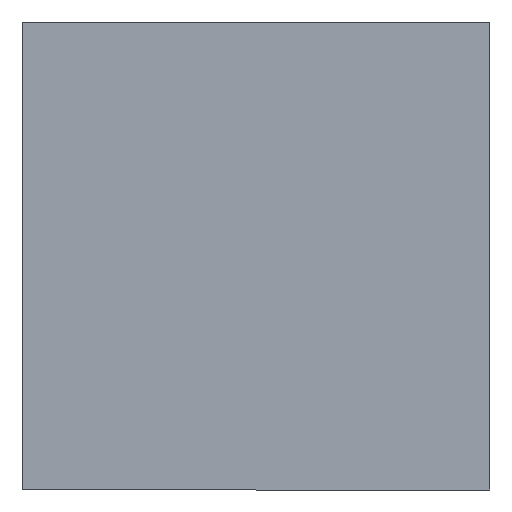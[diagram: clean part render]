
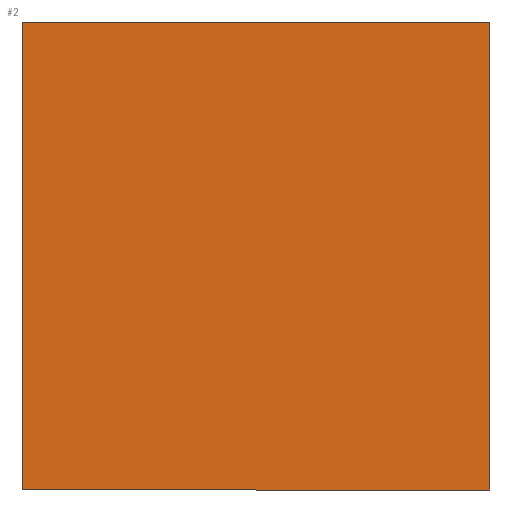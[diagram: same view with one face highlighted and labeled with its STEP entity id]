
A CAD part, left-side view. The second image highlights one B-rep face of the part: STEP entity #2.
In plain terms, the highlighted planar face has unit normal (-1, 0, 0).
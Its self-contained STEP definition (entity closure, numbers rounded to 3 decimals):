
#2 = ADVANCED_FACE ( 'NONE', ( #60 ), #125, .T. ) ;
#8 = EDGE_CURVE ( 'NONE', #194, #126, #94, .T. ) ;
#14 = EDGE_CURVE ( 'NONE', #123, #186, #75, .T. ) ;
#18 = AXIS2_PLACEMENT_3D ( 'NONE', #159, #191, #197 ) ;
#22 = EDGE_CURVE ( 'NONE', #126, #123, #78, .T. ) ;
#24 = EDGE_CURVE ( 'NONE', #186, #194, #102, .T. ) ;
#45 = VECTOR ( 'NONE', #148, 1000. ) ;
#48 = ORIENTED_EDGE ( 'NONE', *, *, #24, .F. ) ;
#56 = EDGE_LOOP ( 'NONE', ( #48, #97, #81, #89 ) ) ;
#60 = FACE_OUTER_BOUND ( 'NONE', #56, .T. ) ;
#75 = LINE ( 'NONE', #155, #99 ) ;
#78 = LINE ( 'NONE', #153, #45 ) ;
#81 = ORIENTED_EDGE ( 'NONE', *, *, #22, .F. ) ;
#85 = VECTOR ( 'NONE', #179, 1000. ) ;
#89 = ORIENTED_EDGE ( 'NONE', *, *, #8, .F. ) ;
#94 = LINE ( 'NONE', #183, #85 ) ;
#97 = ORIENTED_EDGE ( 'NONE', *, *, #14, .F. ) ;
#99 = VECTOR ( 'NONE', #152, 1000. ) ;
#102 = LINE ( 'NONE', #136, #103 ) ;
#103 = VECTOR ( 'NONE', #172, 1000. ) ;
#115 = CARTESIAN_POINT ( 'NONE',  ( 0., 16., 16. ) ) ;
#123 = VERTEX_POINT ( 'NONE', #175 ) ;
#125 = PLANE ( 'NONE',  #18 ) ;
#126 = VERTEX_POINT ( 'NONE', #173 ) ;
#136 = CARTESIAN_POINT ( 'NONE',  ( 0., 16., 16. ) ) ;
#137 = CARTESIAN_POINT ( 'NONE',  ( 0., -16., 16. ) ) ;
#148 = DIRECTION ( 'NONE',  ( 0., 1., 0. ) ) ;
#152 = DIRECTION ( 'NONE',  ( 0., 0., 1. ) ) ;
#153 = CARTESIAN_POINT ( 'NONE',  ( 0., 16., -16. ) ) ;
#155 = CARTESIAN_POINT ( 'NONE',  ( 0., 16., -16. ) ) ;
#159 = CARTESIAN_POINT ( 'NONE',  ( 0., -16., 16. ) ) ;
#172 = DIRECTION ( 'NONE',  ( 0., -1., 0. ) ) ;
#173 = CARTESIAN_POINT ( 'NONE',  ( 0., -16., -16. ) ) ;
#175 = CARTESIAN_POINT ( 'NONE',  ( 0., 16., -16. ) ) ;
#179 = DIRECTION ( 'NONE',  ( 0., 0., -1. ) ) ;
#183 = CARTESIAN_POINT ( 'NONE',  ( 0., -16., -16. ) ) ;
#186 = VERTEX_POINT ( 'NONE', #115 ) ;
#191 = DIRECTION ( 'NONE',  ( -1., 0., 0. ) ) ;
#194 = VERTEX_POINT ( 'NONE', #137 ) ;
#197 = DIRECTION ( 'NONE',  ( 0., 0., 1. ) ) ;
